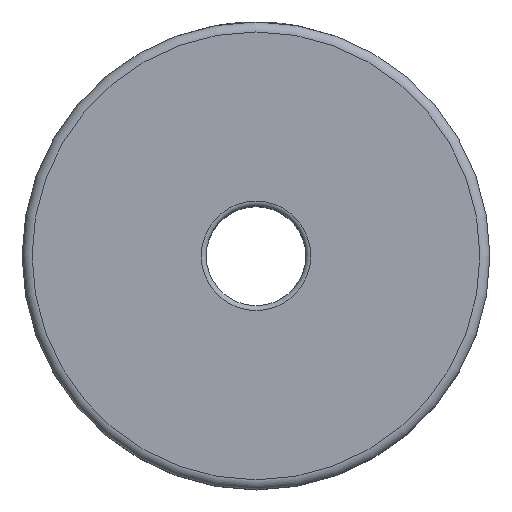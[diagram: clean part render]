
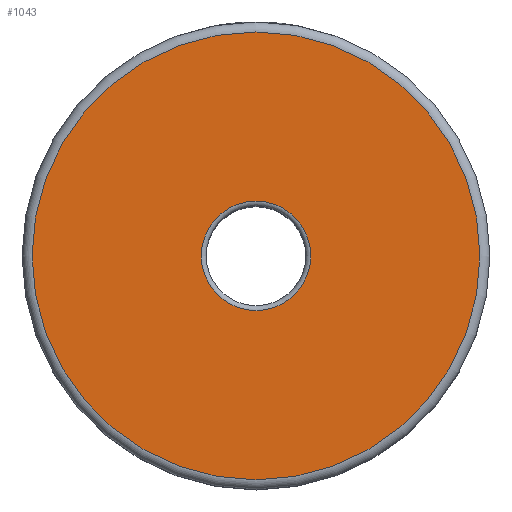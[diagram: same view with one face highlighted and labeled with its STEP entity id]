
A CAD part, top view. The second image highlights one B-rep face of the part: STEP entity #1043.
In plain terms, the highlighted planar face has unit normal (0, 0, 1).
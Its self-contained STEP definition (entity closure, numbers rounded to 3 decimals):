
#31=FACE_BOUND('',#372,.T.);
#219=PLANE('',#1149);
#308=FACE_OUTER_BOUND('',#371,.T.);
#371=EDGE_LOOP('',(#798));
#372=EDGE_LOOP('',(#799));
#448=CIRCLE('',#1145,5.5);
#452=CIRCLE('',#1150,22.5);
#515=VERTEX_POINT('',#1857);
#518=VERTEX_POINT('',#1865);
#624=EDGE_CURVE('',#515,#515,#448,.T.);
#628=EDGE_CURVE('',#518,#518,#452,.T.);
#798=ORIENTED_EDGE('',*,*,#628,.F.);
#799=ORIENTED_EDGE('',*,*,#624,.F.);
#1043=ADVANCED_FACE('',(#308,#31),#219,.T.);
#1145=AXIS2_PLACEMENT_3D('',#1858,#1303,#1304);
#1149=AXIS2_PLACEMENT_3D('',#1864,#1311,#1312);
#1150=AXIS2_PLACEMENT_3D('',#1866,#1313,#1314);
#1303=DIRECTION('center_axis',(0.,0.,1.));
#1304=DIRECTION('ref_axis',(0.,1.,0.));
#1311=DIRECTION('center_axis',(0.,0.,1.));
#1312=DIRECTION('ref_axis',(1.,0.,0.));
#1313=DIRECTION('center_axis',(0.,0.,-1.));
#1314=DIRECTION('ref_axis',(0.,1.,0.));
#1857=CARTESIAN_POINT('',(5.5,0.,0.));
#1858=CARTESIAN_POINT('Origin',(0.,0.,0.));
#1864=CARTESIAN_POINT('Origin',(0.,-23.5,0.));
#1865=CARTESIAN_POINT('',(22.5,0.,0.));
#1866=CARTESIAN_POINT('Origin',(0.,0.,0.));
